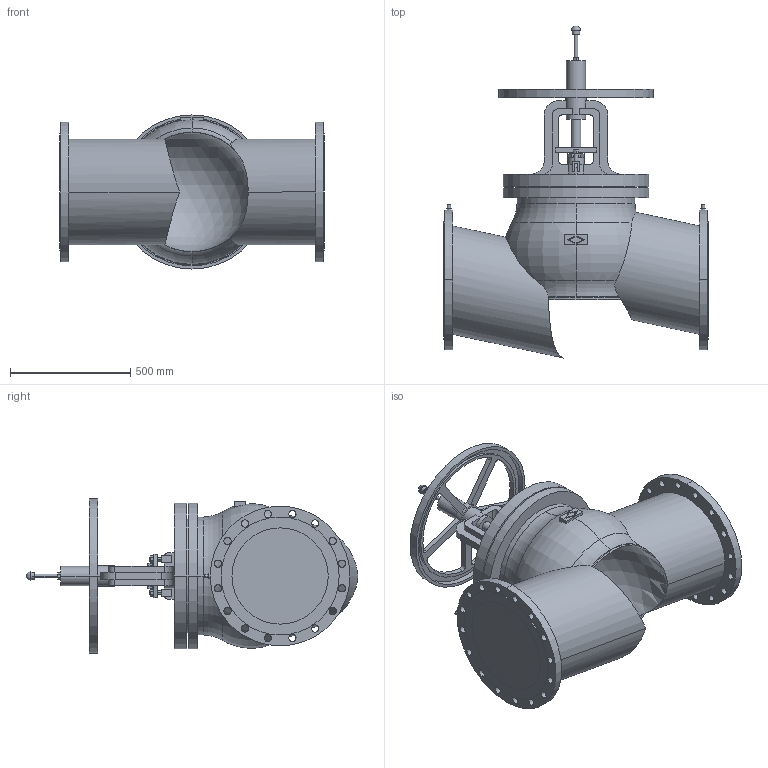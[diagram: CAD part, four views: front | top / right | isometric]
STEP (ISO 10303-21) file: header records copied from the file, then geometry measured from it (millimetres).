
FILE_DESCRIPTION( ( '' ), '1' );
FILE_NAME( 'F:/DE-SHS/TB/OR/04-Sonstiges/daten/files_3d/12042/c000000224.stp', '2015-04-28T06:38:07', ( '' ), ( '' ), ' ', ' ', ' ' );
FILE_SCHEMA( ( 'CONFIG_CONTROL_DESIGN' ) );
Length unit declared in the file: millimetre
Products named in the file (1): 1
Bounding box: 1100 x 1378.87 x 640 mm (x, y, z)
Volume: 206740520.7 mm3; surface area: 4530684.5 mm2
Topology: 1 solids, 1 shells, 359 faces, 980 edges, 648 vertices
Faces by surface type: cylinder 171, plane 168, torus 13, sphere 7
Entity records: 12404 total; most frequent: CARTESIAN_POINT 2798, DIRECTION 2062, ORIENTED_EDGE 1944, EDGE_CURVE 972, AXIS2_PLACEMENT_3D 760, VERTEX_POINT 648, LINE 542, VECTOR 542
